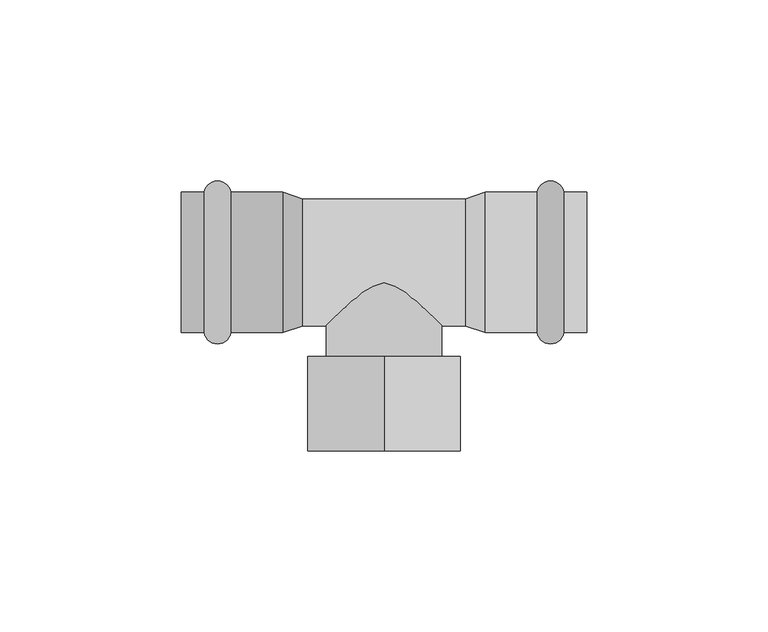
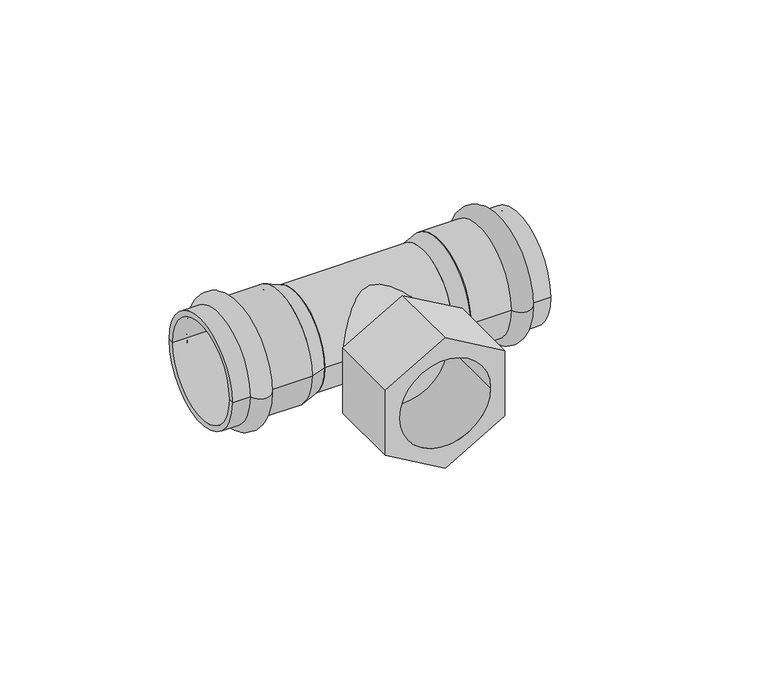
"""IFC4 building model written with IfcOpenShell, lengths in millimetres: pipe fitting geometry, VALTEC_VTi.932.I_Тройник с переходом на внутреннюю резьбу нержавеющая сталь : VTi.932.I."""

from ifc_helpers import new_model, si_unit, point, frame, origin, origin_2d, place, context, project, spatial, polyline, circle_curve, ellipse_curve, trimmed, segment, composite_curve, outline, extrude, source, transform, mapped, element, save
from ifc_brep_helpers import plane_surface, cylinder_surface, revolved_surface, advanced_brep


def pipe_fitting_6e8cfbeb(model_context):
    return source(origin(), model_context, "Body", "SolidModel", [
        advanced_brep(
        [(49.6432371, 19.4, 0.0), (49.6432371, -19.4, 0.0), (42.2567629, -19.4, 0.0), (42.2567629, 19.4, 0.0), (56.0, 19.4, 0.0), (56.0, -19.4, 0.0), (56.0, 17.5, 0.0), (56.0, -17.5, 0.0), (28.0, 17.5, 0.0), (28.0, -17.5, 0.0), (28.0, 19.4, 0.0), (28.0, -19.4, 0.0)],
        [
            (0, 1, circle_curve(frame((49.6432371, 0.0, 0.0), z_axis=(-1.0, 0.0, 0.0), x_axis=(0.0, -1.0, 0.0)), 19.4)),
            (1, 2, circle_curve(frame((45.95, -18.75, 0.0), z_axis=(0.0, 0.0, -1.0), x_axis=(-1.0, 0.0, 0.0)), 3.75)),
            (2, 3, circle_curve(frame((42.2567629, 0.0, 0.0), z_axis=(1.0, 0.0, 0.0), x_axis=(0.0, -1.0, 0.0)), 19.4)),
            (3, 0, circle_curve(frame((45.95, 18.75, 0.0), z_axis=(0.0, 0.0, -1.0), x_axis=(-1.0, 0.0, 0.0)), 3.75)),
            (1, 0, circle_curve(frame((49.6432371, 0.0, 0.0), z_axis=(-1.0, 0.0, 0.0), x_axis=(0.0, -1.0, 0.0)), 19.4)),
            (3, 2, circle_curve(frame((42.2567629, 0.0, 0.0), z_axis=(1.0, 0.0, 0.0), x_axis=(0.0, -1.0, 0.0)), 19.4)),
            (4, 5, circle_curve(frame((56.0, 0.0, 0.0), z_axis=(-1.0, 0.0, 0.0), x_axis=(0.0, -1.0, 0.0)), 19.4)),
            (5, 1),
            (0, 4),
            (5, 4, circle_curve(frame((56.0, 0.0, 0.0), z_axis=(-1.0, 0.0, 0.0), x_axis=(0.0, -1.0, 0.0)), 19.4)),
            (6, 7, circle_curve(frame((56.0, 0.0, 0.0), z_axis=(-1.0, 0.0, 0.0), x_axis=(0.0, -1.0, 0.0)), 17.5)),
            (7, 5),
            (4, 6),
            (7, 6, circle_curve(frame((56.0, 0.0, 0.0), z_axis=(-1.0, 0.0, 0.0), x_axis=(0.0, -1.0, 0.0)), 17.5)),
            (8, 9, circle_curve(frame((28.0, 0.0, 0.0), z_axis=(-1.0, 0.0, 0.0), x_axis=(0.0, -1.0, 0.0)), 17.5)),
            (9, 7),
            (6, 8),
            (9, 8, circle_curve(frame((28.0, 0.0, 0.0), z_axis=(-1.0, 0.0, 0.0), x_axis=(0.0, -1.0, 0.0)), 17.5)),
            (10, 11, circle_curve(frame((28.0, 0.0, 0.0), z_axis=(-1.0, 0.0, 0.0), x_axis=(0.0, -1.0, 0.0)), 19.4)),
            (11, 9),
            (8, 10),
            (11, 10, circle_curve(frame((28.0, 0.0, 0.0), z_axis=(-1.0, 0.0, 0.0), x_axis=(0.0, -1.0, 0.0)), 19.4)),
            (2, 11),
            (10, 3),
        ],
        [
            revolved_surface(trimmed(ellipse_curve(frame((45.95, -18.75, 0.0), z_axis=(0.0, 0.0, 1.0), x_axis=(-1.0, 0.0, 0.0)), 3.75, 3.75), [point((42.2567629, -19.4, 0.0))], [point((49.6432371, -19.4, 0.0))], True, "CARTESIAN"), (59.5364426, 0.0, 0.0), (1.0, 0.0, 0.0)),
            cylinder_surface(frame((59.5364426, 0.0, 0.0), z_axis=(1.0, 0.0, 0.0), x_axis=(0.0, -1.0, 0.0)), 19.4),
            plane_surface(frame((56.0, 0.0, 0.0), z_axis=(1.0, 0.0, 0.0), x_axis=(0.0, -1.0, 0.0))),
            revolved_surface(polyline([(56.0, -17.5, 0.0), (28.0, -17.5, 0.0)]), (59.5364426, 0.0, 0.0), (1.0, 0.0, 0.0)),
            plane_surface(frame((28.0, 0.0, 0.0), z_axis=(-1.0, 0.0, 0.0), x_axis=(0.0, -1.0, 0.0))),
        ],
        [
            (0, [[1, 2, 3, 4]]),
            (0, [[5, -4, 6, -2]]),
            (1, [[7, 8, -1, 9]]),
            (1, [[10, -9, -5, -8]]),
            (2, [[11, 12, -7, 13]]),
            (2, [[14, -13, -10, -12]]),
            (3, [[15, 16, -11, 17]]),
            (3, [[18, -17, -14, -16]]),
            (4, [[19, 20, -15, 21]]),
            (4, [[22, -21, -18, -20]]),
            (1, [[-3, 23, -19, 24]]),
            (1, [[-6, -24, -22, -23]]),
        ],
    ),
        advanced_brep(
        [(-49.6432371, -19.4, 0.0), (-49.6432371, 19.4, 0.0), (-42.2567629, 19.4, 0.0), (-42.2567629, -19.4, 0.0), (-56.0, -19.4, 0.0), (-56.0, 19.4, 0.0), (-56.0, -17.5, 0.0), (-56.0, 17.5, 0.0), (-28.0, -17.5, 0.0), (-28.0, 17.5, 0.0), (-28.0, -19.4, 0.0), (-28.0, 19.4, 0.0)],
        [
            (0, 1, circle_curve(frame((-49.6432371, 0.0, 0.0), z_axis=(1.0, 0.0, 0.0), x_axis=(0.0, 1.0, 0.0)), 19.4)),
            (1, 2, circle_curve(frame((-45.95, 18.75, 0.0), z_axis=(0.0, 0.0, -1.0), x_axis=(1.0, 0.0, 0.0)), 3.75)),
            (2, 3, circle_curve(frame((-42.2567629, 0.0, 0.0), z_axis=(-1.0, 0.0, 0.0), x_axis=(0.0, 1.0, 0.0)), 19.4)),
            (3, 0, circle_curve(frame((-45.95, -18.75, 0.0), z_axis=(0.0, 0.0, -1.0), x_axis=(1.0, 0.0, 0.0)), 3.75)),
            (1, 0, circle_curve(frame((-49.6432371, 0.0, 0.0), z_axis=(1.0, 0.0, 0.0), x_axis=(0.0, 1.0, 0.0)), 19.4)),
            (3, 2, circle_curve(frame((-42.2567629, 0.0, 0.0), z_axis=(-1.0, 0.0, 0.0), x_axis=(0.0, 1.0, 0.0)), 19.4)),
            (4, 5, circle_curve(frame((-56.0, 0.0, 0.0), z_axis=(1.0, 0.0, 0.0), x_axis=(0.0, 1.0, 0.0)), 19.4)),
            (5, 1),
            (0, 4),
            (5, 4, circle_curve(frame((-56.0, 0.0, 0.0), z_axis=(1.0, 0.0, 0.0), x_axis=(0.0, 1.0, 0.0)), 19.4)),
            (6, 7, circle_curve(frame((-56.0, 0.0, 0.0), z_axis=(1.0, 0.0, 0.0), x_axis=(0.0, 1.0, 0.0)), 17.5)),
            (7, 5),
            (4, 6),
            (7, 6, circle_curve(frame((-56.0, 0.0, 0.0), z_axis=(1.0, 0.0, 0.0), x_axis=(0.0, 1.0, 0.0)), 17.5)),
            (8, 9, circle_curve(frame((-28.0, 0.0, 0.0), z_axis=(1.0, 0.0, 0.0), x_axis=(0.0, 1.0, 0.0)), 17.5)),
            (9, 7),
            (6, 8),
            (9, 8, circle_curve(frame((-28.0, 0.0, 0.0), z_axis=(1.0, 0.0, 0.0), x_axis=(0.0, 1.0, 0.0)), 17.5)),
            (10, 11, circle_curve(frame((-28.0, 0.0, 0.0), z_axis=(1.0, 0.0, 0.0), x_axis=(0.0, 1.0, 0.0)), 19.4)),
            (11, 9),
            (8, 10),
            (11, 10, circle_curve(frame((-28.0, 0.0, 0.0), z_axis=(1.0, 0.0, 0.0), x_axis=(0.0, 1.0, 0.0)), 19.4)),
            (2, 11),
            (10, 3),
        ],
        [
            revolved_surface(trimmed(ellipse_curve(frame((-45.95, 18.75, 0.0), z_axis=(0.0, 0.0, 1.0), x_axis=(1.0, 0.0, 0.0)), 3.75, 3.75), [point((-42.2567629, 19.4, 0.0))], [point((-49.6432371, 19.4, 0.0))], True, "CARTESIAN"), (-59.5364426, 0.0, 0.0), (-1.0, 0.0, 0.0)),
            cylinder_surface(frame((-59.5364426, 0.0, 0.0), z_axis=(-1.0, 0.0, 0.0), x_axis=(0.0, 1.0, 0.0)), 19.4),
            plane_surface(frame((-56.0, 0.0, 0.0), z_axis=(-1.0, 0.0, 0.0), x_axis=(0.0, 1.0, 0.0))),
            revolved_surface(polyline([(-56.0, 17.5, 0.0), (-28.0, 17.5, 0.0)]), (-59.5364426, 0.0, 0.0), (-1.0, 0.0, 0.0)),
            plane_surface(frame((-28.0, 0.0, 0.0), z_axis=(1.0, 0.0, 0.0), x_axis=(0.0, 1.0, 0.0))),
        ],
        [
            (0, [[1, 2, 3, 4]]),
            (0, [[5, -4, 6, -2]]),
            (1, [[7, 8, -1, 9]]),
            (1, [[10, -9, -5, -8]]),
            (2, [[11, 12, -7, 13]]),
            (2, [[14, -13, -10, -12]]),
            (3, [[15, 16, -11, 17]]),
            (3, [[18, -17, -14, -16]]),
            (4, [[19, 20, -15, 21]]),
            (4, [[22, -21, -18, -20]]),
            (1, [[-3, 23, -19, 24]]),
            (1, [[-6, -24, -22, -23]]),
        ],
    ),
        extrude(outline(polyline([(24.2487113, 0.0), (12.1243557, -21.0), (-12.1243557, -21.0), (-24.2487113, 0.0), (-12.1243557, 21.0), (12.1243557, 21.0), (24.2487113, 0.0)]), holes=[composite_curve([segment(trimmed(circle_curve(origin_2d(), 16.0), [point((0.0, -16.0))], [point((0.0, 16.0))], True, "CARTESIAN"), True, "CONTINUOUS"), segment(trimmed(circle_curve(origin_2d(), 16.0), [point((0.0, 16.0))], [point((0.0, -16.0))], True, "CARTESIAN"), True, "CONTINUOUS")], self_intersect=False)]), frame((0.0, -52.0, 0.0), z_axis=(0.0, 1.0, 0.0), x_axis=(0.0, 0.0, 1.0)), (0.0, 0.0, 1.0), 26.0),
        extrude(outline(composite_curve([segment(trimmed(circle_curve(origin_2d(), 16.0), [point((0.0, -16.0))], [point((0.0, 16.0))], False, "CARTESIAN"), True, "CONTINUOUS"), segment(trimmed(circle_curve(origin_2d(), 16.0), [point((0.0, 16.0))], [point((0.0, -16.0))], False, "CARTESIAN"), True, "CONTINUOUS")], self_intersect=False)), frame((0.0, -26.0, 0.0), z_axis=(0.0, 1.0, 0.0), x_axis=(0.0, 0.0, 1.0)), (0.0, 0.0, 1.0), 26.0),
        extrude(outline(composite_curve([segment(trimmed(circle_curve(origin_2d(), 17.5), [point((-17.5, 0.0))], [point((17.5, 0.0))], False, "CARTESIAN"), True, "CONTINUOUS"), segment(trimmed(circle_curve(origin_2d(), 17.5), [point((17.5, 0.0))], [point((-17.5, 0.0))], False, "CARTESIAN"), True, "CONTINUOUS")], self_intersect=False)), frame((-22.4, 0.0, 0.0), z_axis=(1.0, 0.0, 0.0), x_axis=(0.0, 1.0, 0.0)), (0.0, 0.0, 1.0), 44.8),
        advanced_brep(
        [(28.0, -19.4, 0.0), (28.0, 19.4, 0.0), (22.4, -17.5, 0.0), (22.4, 17.5, 0.0)],
        [
            (0, 1, circle_curve(frame((28.0, 0.0, 0.0), z_axis=(1.0, 0.0, 0.0), x_axis=(0.0, -1.0, 0.0)), 19.4)),
            (1, 0, circle_curve(frame((28.0, 0.0, 0.0), z_axis=(1.0, 0.0, 0.0), x_axis=(0.0, 1.0, 0.0)), 19.4)),
            (2, 3, circle_curve(frame((22.4, 0.0, 0.0), z_axis=(-1.0, 0.0, 0.0), x_axis=(0.0, 1.0, 0.0)), 17.5)),
            (3, 2, circle_curve(frame((22.4, 0.0, 0.0), z_axis=(-1.0, 0.0, 0.0), x_axis=(0.0, -1.0, 0.0)), 17.5)),
            (3, 1),
            (0, 2),
        ],
        [
            plane_surface(frame((28.0, 0.0, 0.0), z_axis=(1.0, 0.0, 0.0), x_axis=(0.0, 0.0, 1.0))),
            plane_surface(frame((22.4, 0.0, 0.0), z_axis=(-1.0, 0.0, 0.0), x_axis=(0.0, 0.0, 1.0))),
            revolved_surface(polyline([(22.4, 17.500000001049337, 0.0), (28.0, 19.4, 0.0)]), (-29.1789474, 0.0, 0.0), (1.0, 0.0, 0.0)),
            revolved_surface(polyline([(22.4, -17.500000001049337, 0.0), (28.0, -19.4, 0.0)]), (-29.1789474, 0.0, 0.0), (1.0, 0.0, 0.0)),
        ],
        [
            (0, [[1, 2]]),
            (1, [[3, 4]]),
            (2, [[-4, 5, -1, 6]]),
            (3, [[-3, -6, -2, -5]]),
        ],
    ),
        advanced_brep(
        [(-28.0, -19.4, 0.0), (-28.0, 19.4, 0.0), (-22.4, -17.5, 0.0), (-22.4, 17.5, 0.0)],
        [
            (0, 1, circle_curve(frame((-28.0, 0.0, 0.0), z_axis=(-1.0, 0.0, 0.0), x_axis=(0.0, -1.0, 0.0)), 19.4)),
            (1, 0, circle_curve(frame((-28.0, 0.0, 0.0), z_axis=(-1.0, 0.0, 0.0), x_axis=(0.0, 1.0, 0.0)), 19.4)),
            (2, 3, circle_curve(frame((-22.4, 0.0, 0.0), z_axis=(1.0, 0.0, 0.0), x_axis=(0.0, 1.0, 0.0)), 17.5)),
            (3, 2, circle_curve(frame((-22.4, 0.0, 0.0), z_axis=(1.0, 0.0, 0.0), x_axis=(0.0, -1.0, 0.0)), 17.5)),
            (2, 0),
            (1, 3),
        ],
        [
            plane_surface(frame((-28.0, 0.0, 0.0), z_axis=(-1.0, 0.0, 0.0), x_axis=(0.0, 0.0, -1.0))),
            plane_surface(frame((-22.4, 0.0, 0.0), z_axis=(1.0, 0.0, 0.0), x_axis=(0.0, 0.0, -1.0))),
            revolved_surface(polyline([(-22.4, -17.500000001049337, 0.0), (-28.0, -19.4, 0.0)]), (29.1789474, 0.0, 0.0), (-1.0, 0.0, 0.0)),
            revolved_surface(polyline([(-22.4, 17.500000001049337, 0.0), (-28.0, 19.4, 0.0)]), (29.1789474, 0.0, 0.0), (-1.0, 0.0, 0.0)),
        ],
        [
            (0, [[1, 2]]),
            (1, [[3, 4]]),
            (2, [[-3, 5, -2, 6]]),
            (3, [[-4, -6, -1, -5]]),
        ],
    ),
    ])


if __name__ == "__main__":
    model = new_model("IFC4")
    model_context = context("Model", 3, world=origin())
    ifc_project = project(units=[si_unit("LENGTHUNIT", "METRE", prefix="MILLI")], contexts=[model_context])
    site = spatial("IfcSite", under=ifc_project)
    building = spatial("IfcBuilding", under=site)
    placement = place(None, origin())
    pipe_fitting_shape = pipe_fitting_6e8cfbeb(model_context)
    element("IfcPipeFitting", 1, ObjectType="VALTEC_VTi.932.I_Тройник с переходом на внутреннюю резьбу нержавеющая сталь : VTi.932.I", at=placement, inside=building, context=model_context, shape_type="MappedRepresentation", body=[
        mapped(pipe_fitting_shape, transform((0.0, 0.0, 0.0), x_axis=(1.0, 0.0, 0.0), y_axis=(0.0, 1.0, 0.0), z_axis=(0.0, 0.0, 1.0))),
    ])
    save(model, "model.ifc")
